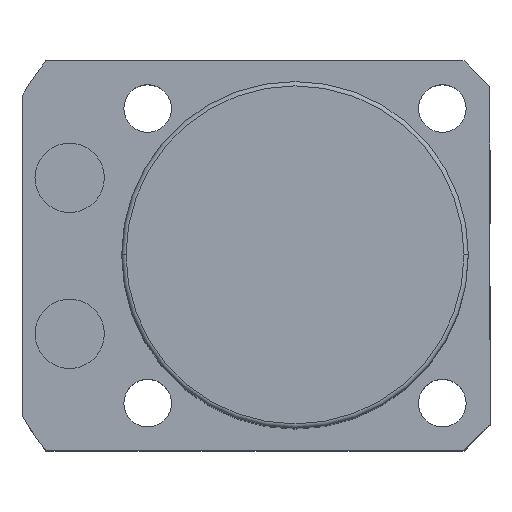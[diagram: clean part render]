
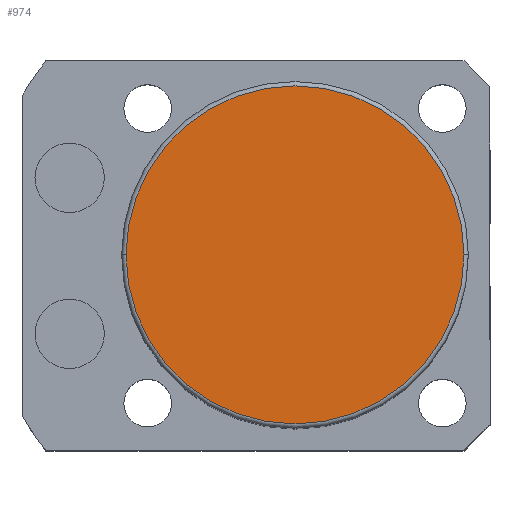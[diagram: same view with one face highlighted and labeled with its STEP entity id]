
A CAD part, top view. The second image highlights one B-rep face of the part: STEP entity #974.
In plain terms, the highlighted planar face has unit normal (0, 0, 1).
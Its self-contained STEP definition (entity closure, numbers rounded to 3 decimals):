
#75 = DIRECTION ( 'NONE',  ( 0., 0., 1. ) ) ;
#134 = EDGE_CURVE ( 'NONE', #1976, #1116, #1444, .T. ) ;
#155 = CARTESIAN_POINT ( 'NONE',  ( 0., 0., 73.5 ) ) ;
#212 = CARTESIAN_POINT ( 'NONE',  ( 0., 0., 73.5 ) ) ;
#269 = EDGE_CURVE ( 'NONE', #1116, #1976, #1413, .T. ) ;
#454 = ORIENTED_EDGE ( 'NONE', *, *, #134, .T. ) ;
#523 = AXIS2_PLACEMENT_3D ( 'NONE', #155, #1507, #1909 ) ;
#586 = CARTESIAN_POINT ( 'NONE',  ( 19.5, 0., 73.5 ) ) ;
#647 = CARTESIAN_POINT ( 'NONE',  ( 0., 0., 73.5 ) ) ;
#676 = FACE_OUTER_BOUND ( 'NONE', #780, .T. ) ;
#780 = EDGE_LOOP ( 'NONE', ( #2147, #454 ) ) ;
#845 = CARTESIAN_POINT ( 'NONE',  ( -19.5, 0., 73.5 ) ) ;
#974 = ADVANCED_FACE ( 'NONE', ( #676 ), #2091, .T. ) ;
#1116 = VERTEX_POINT ( 'NONE', #586 ) ;
#1404 = DIRECTION ( 'NONE',  ( 0., 0., 1. ) ) ;
#1413 = CIRCLE ( 'NONE', #2407, 19.5 ) ;
#1421 = DIRECTION ( 'NONE',  ( 1., 0., 0. ) ) ;
#1422 = AXIS2_PLACEMENT_3D ( 'NONE', #647, #75, #1421 ) ;
#1444 = CIRCLE ( 'NONE', #1422, 19.5 ) ;
#1507 = DIRECTION ( 'NONE',  ( 0., 0., 1. ) ) ;
#1909 = DIRECTION ( 'NONE',  ( 1., 0., 0. ) ) ;
#1976 = VERTEX_POINT ( 'NONE', #845 ) ;
#2091 = PLANE ( 'NONE',  #523 ) ;
#2147 = ORIENTED_EDGE ( 'NONE', *, *, #269, .T. ) ;
#2176 = DIRECTION ( 'NONE',  ( 1., 0., 0. ) ) ;
#2407 = AXIS2_PLACEMENT_3D ( 'NONE', #212, #1404, #2176 ) ;
